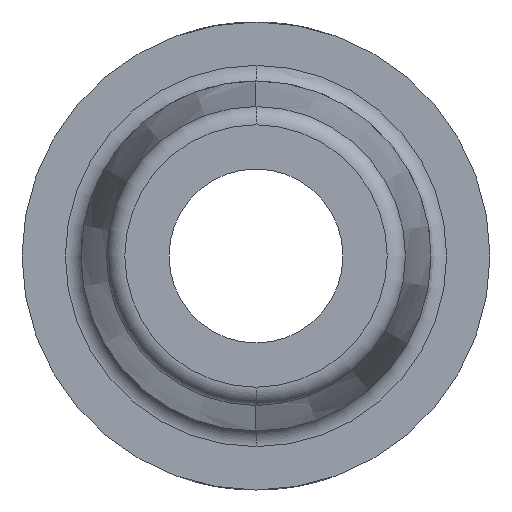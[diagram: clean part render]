
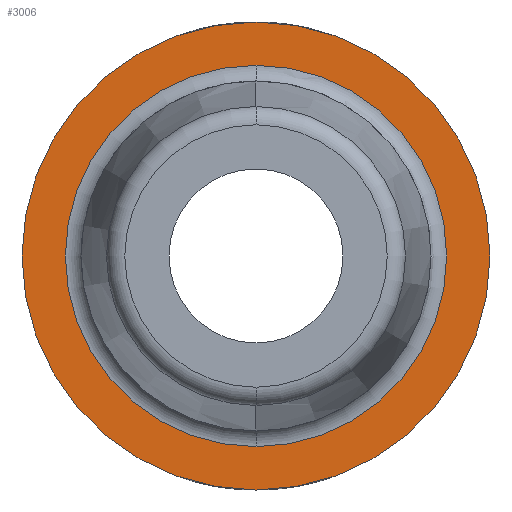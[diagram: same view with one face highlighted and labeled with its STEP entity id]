
A CAD part, left-side view. The second image highlights one B-rep face of the part: STEP entity #3006.
In plain terms, the highlighted planar face has unit normal (-1, 0, 0).
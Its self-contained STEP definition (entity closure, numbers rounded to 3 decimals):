
#65=FACE_BOUND('',#926,.T.);
#76=PLANE('',#3311);
#757=FACE_OUTER_BOUND('',#925,.T.);
#925=EDGE_LOOP('',(#2295,#2296));
#926=EDGE_LOOP('',(#2297,#2298));
#1078=CIRCLE('',#3170,2.587);
#1131=CIRCLE('',#3240,3.175);
#1166=CIRCLE('',#3277,3.175);
#1189=CIRCLE('',#3312,2.587);
#1226=VERTEX_POINT('',#4221);
#1227=VERTEX_POINT('',#4222);
#1330=VERTEX_POINT('',#4717);
#1331=VERTEX_POINT('',#4719);
#1546=EDGE_CURVE('',#1226,#1227,#1078,.T.);
#1656=EDGE_CURVE('',#1331,#1330,#1131,.T.);
#1728=EDGE_CURVE('',#1330,#1331,#1166,.T.);
#1791=EDGE_CURVE('',#1227,#1226,#1189,.T.);
#2295=ORIENTED_EDGE('',*,*,#1656,.T.);
#2296=ORIENTED_EDGE('',*,*,#1728,.T.);
#2297=ORIENTED_EDGE('',*,*,#1791,.T.);
#2298=ORIENTED_EDGE('',*,*,#1546,.T.);
#3006=ADVANCED_FACE('',(#757,#65),#76,.F.);
#3170=AXIS2_PLACEMENT_3D('',#4223,#3449,#3450);
#3240=AXIS2_PLACEMENT_3D('',#4720,#3622,#3623);
#3277=AXIS2_PLACEMENT_3D('',#4990,#3727,#3728);
#3311=AXIS2_PLACEMENT_3D('',#5564,#3807,#3808);
#3312=AXIS2_PLACEMENT_3D('',#5565,#3809,#3810);
#3449=DIRECTION('center_axis',(1.,0.,0.));
#3450=DIRECTION('ref_axis',(0.,0.,
1.));
#3622=DIRECTION('center_axis',(-1.,0.,0.));
#3623=DIRECTION('ref_axis',(0.,0.,1.));
#3727=DIRECTION('center_axis',(-1.,0.,0.));
#3728=DIRECTION('ref_axis',(0.,0.,
-1.));
#3807=DIRECTION('center_axis',(1.,0.,0.));
#3808=DIRECTION('ref_axis',(0.,0.,-1.));
#3809=DIRECTION('center_axis',(1.,0.,0.));
#3810=DIRECTION('ref_axis',(0.,0.,-1.));
#4221=CARTESIAN_POINT('',(-12.25,0.,2.587));
#4222=CARTESIAN_POINT('',(-12.25,0.,-2.587));
#4223=CARTESIAN_POINT('Origin',(-12.25,0.,0.));
#4717=CARTESIAN_POINT('',(-12.25,0.,-3.175));
#4719=CARTESIAN_POINT('',(-12.25,0.,3.175));
#4720=CARTESIAN_POINT('Origin',(-12.25,0.,0.));
#4990=CARTESIAN_POINT('Origin',(-12.25,0.,0.));
#5564=CARTESIAN_POINT('Origin',(-12.25,-3.213,0.));
#5565=CARTESIAN_POINT('Origin',(-12.25,0.,0.));
